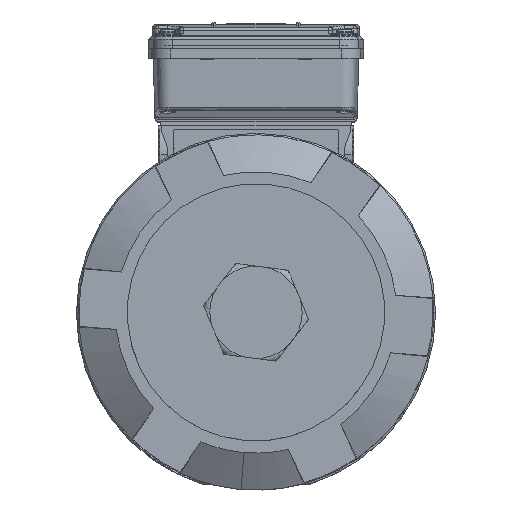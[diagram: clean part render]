
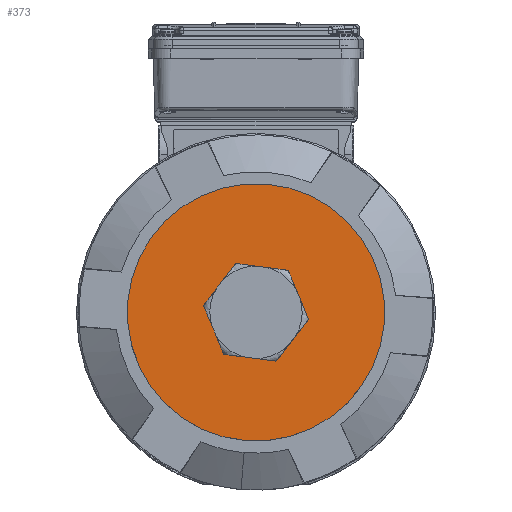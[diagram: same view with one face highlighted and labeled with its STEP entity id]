
A CAD part, top view. The second image highlights one B-rep face of the part: STEP entity #373.
In plain terms, the highlighted planar face has unit normal (0, 0, 1) as drawn and (1, 0, 0) by its records, which use the part's own axes.
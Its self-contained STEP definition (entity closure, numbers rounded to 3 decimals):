
#373 = ADVANCED_FACE ( 'NONE', ( #105340, #108546 ), #105271, .F. ) ;
#481 = DIRECTION ( 'NONE',  ( 0., 0., -1. ) ) ;
#3768 = ORIENTED_EDGE ( 'NONE', *, *, #101760, .F. ) ;
#14127 = DIRECTION ( 'NONE',  ( -1., 0., 0. ) ) ;
#14871 = ORIENTED_EDGE ( 'NONE', *, *, #86874, .F. ) ;
#19475 = AXIS2_PLACEMENT_3D ( 'NONE', #88175, #26881, #98403 ) ;
#20993 = VERTEX_POINT ( 'NONE', #112937 ) ;
#26881 = DIRECTION ( 'NONE',  ( -1., 0., 0. ) ) ;
#32838 = AXIS2_PLACEMENT_3D ( 'NONE', #103400, #42178, #113692 ) ;
#34346 = DIRECTION ( 'NONE',  ( 1., 0., 0. ) ) ;
#39204 = VERTEX_POINT ( 'NONE', #80580 ) ;
#42178 = DIRECTION ( 'NONE',  ( -1., 0., 0. ) ) ;
#44152 = CIRCLE ( 'NONE', #19475, 67. ) ;
#45320 = CIRCLE ( 'NONE', #88247, 19.25 ) ;
#46588 = EDGE_LOOP ( 'NONE', ( #3768, #82571 ) ) ;
#61678 = DIRECTION ( 'NONE',  ( 1., 0., 0. ) ) ;
#64711 = AXIS2_PLACEMENT_3D ( 'NONE', #122981, #61678, #481 ) ;
#71382 = VERTEX_POINT ( 'NONE', #89399 ) ;
#74284 = CARTESIAN_POINT ( 'NONE',  ( 121.5, 0., 67. ) ) ;
#75189 = EDGE_CURVE ( 'NONE', #20993, #39204, #45320, .T. ) ;
#75326 = CARTESIAN_POINT ( 'NONE',  ( 121.5, 25.4, 0. ) ) ;
#78034 = AXIS2_PLACEMENT_3D ( 'NONE', #75326, #14127, #85658 ) ;
#80041 = EDGE_CURVE ( 'NONE', #71382, #107492, #44152, .T. ) ;
#80580 = CARTESIAN_POINT ( 'NONE',  ( 121.5, 0., 19.25 ) ) ;
#82023 = CIRCLE ( 'NONE', #32838, 67. ) ;
#82571 = ORIENTED_EDGE ( 'NONE', *, *, #80041, .F. ) ;
#85658 = DIRECTION ( 'NONE',  ( 0., 0., 1. ) ) ;
#86874 = EDGE_CURVE ( 'NONE', #39204, #20993, #109199, .T. ) ;
#88175 = CARTESIAN_POINT ( 'NONE',  ( 121.5, 0., 0. ) ) ;
#88247 = AXIS2_PLACEMENT_3D ( 'NONE', #95588, #34346, #105827 ) ;
#89399 = CARTESIAN_POINT ( 'NONE',  ( 121.5, 0., -67. ) ) ;
#95588 = CARTESIAN_POINT ( 'NONE',  ( 121.5, 0., 0. ) ) ;
#98403 = DIRECTION ( 'NONE',  ( 0., 0., 1. ) ) ;
#101760 = EDGE_CURVE ( 'NONE', #107492, #71382, #82023, .T. ) ;
#103400 = CARTESIAN_POINT ( 'NONE',  ( 121.5, 0., 0. ) ) ;
#105271 = PLANE ( 'NONE',  #78034 ) ;
#105340 = FACE_BOUND ( 'NONE', #114930, .T. ) ;
#105827 = DIRECTION ( 'NONE',  ( 0., 0., -1. ) ) ;
#107492 = VERTEX_POINT ( 'NONE', #74284 ) ;
#108546 = FACE_OUTER_BOUND ( 'NONE', #46588, .T. ) ;
#109199 = CIRCLE ( 'NONE', #64711, 19.25 ) ;
#112937 = CARTESIAN_POINT ( 'NONE',  ( 121.5, 0., -19.25 ) ) ;
#113692 = DIRECTION ( 'NONE',  ( 0., 0., 1. ) ) ;
#114930 = EDGE_LOOP ( 'NONE', ( #123578, #14871 ) ) ;
#122981 = CARTESIAN_POINT ( 'NONE',  ( 121.5, 0., 0. ) ) ;
#123578 = ORIENTED_EDGE ( 'NONE', *, *, #75189, .F. ) ;
